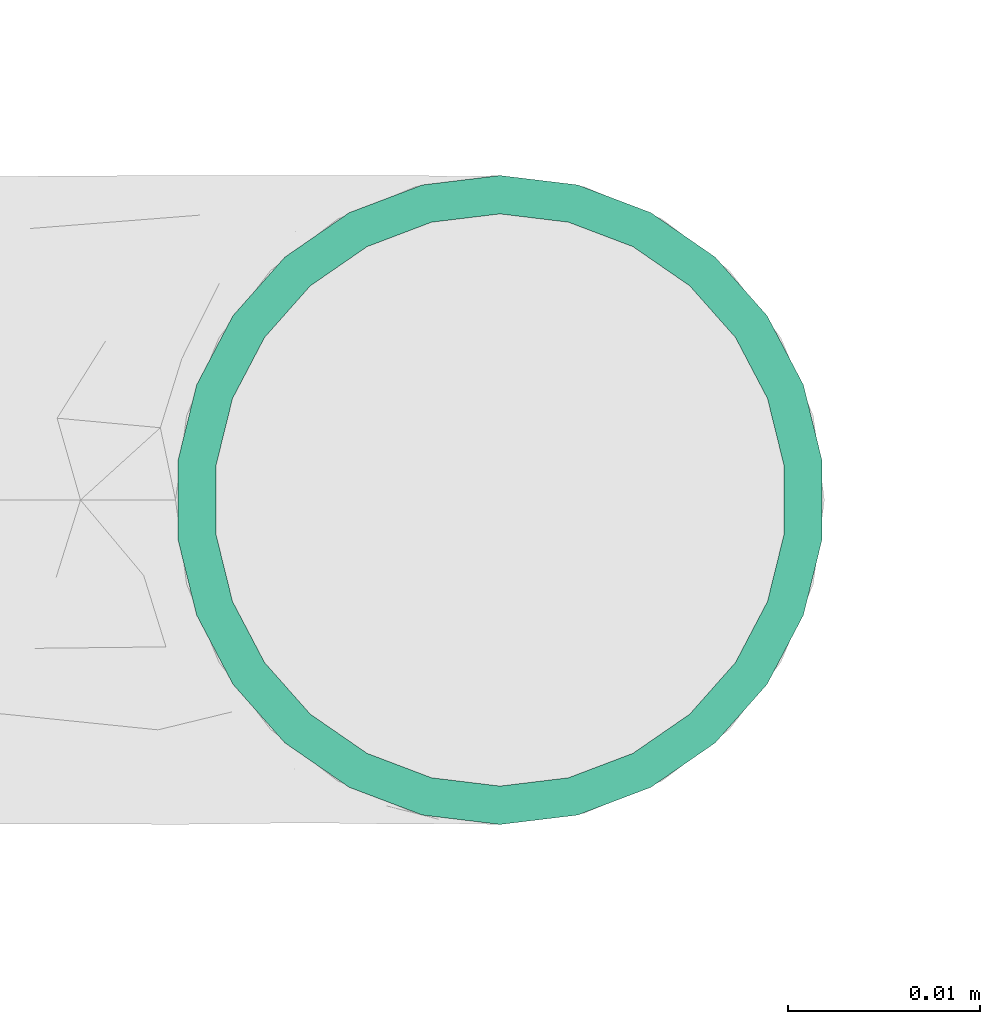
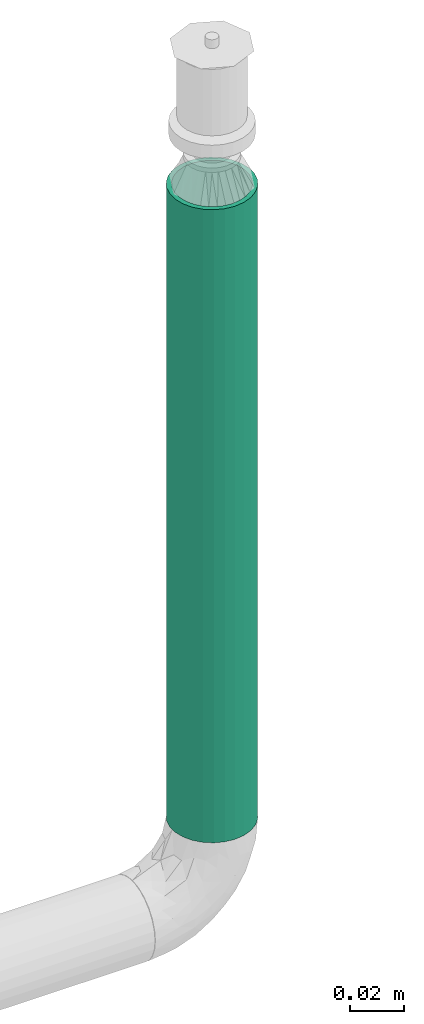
# One storey, part 15 of 63: 1 flow segment.
"""IFC2X3 building model written with IfcOpenShell, lengths in millimetres."""

import ifcopenshell
import ifcopenshell.guid

model = None  # the IFC model being written
_history = None  # IfcOwnerHistory: only IFC2X3 demands one
_inside = {}  # id of a spatial element -> (the spatial element, [elements in it])
_under = {}  # id of a project, library or spatial element -> (it, [spatial elements below it])
_declared = {}  # id of a project -> (the project, [libraries it declares])
_typed = {}  # id of a type object -> (the type object, [elements of that type])
_made_of = {}  # id of a material, layer set ... -> (it, [elements and type objects made of it])


def new_model(schema):
    """Start an empty IFC model of exactly this schema.

    Asked for "IFC4X3", IfcOpenShell would pick the latest addendum, in which some entities
    have other attributes; the version numbers below select the first issue.
    IFC2X3 requires an IfcOwnerHistory on every rooted entity: one is made here for all.
    """
    global model, _history
    if schema == "IFC4X3":
        model = ifcopenshell.file(schema_version=(4, 3, 0, 0))
    else:
        model = ifcopenshell.file(schema=schema)
    _inside.clear()
    _under.clear()
    _declared.clear()
    _typed.clear()
    _made_of.clear()
    _history = None
    if model.schema == "IFC2X3":
        org = make("IfcOrganization", Name="unknown")
        user = make(
            "IfcPersonAndOrganization",
            ThePerson=make("IfcPerson", FamilyName="unknown"),
            TheOrganization=org,
        )
        app = make(
            "IfcApplication",
            ApplicationDeveloper=org,
            Version="unknown",
            ApplicationFullName="unknown",
            ApplicationIdentifier="unknown",
        )
        _history = make(
            "IfcOwnerHistory",
            OwningUser=user,
            OwningApplication=app,
            ChangeAction="ADDED",
            CreationDate=0,
        )
    return model


def make(cls, **values):
    """One entity of the class cls with the attributes given. An attribute that is None is left unset."""
    return model.create_entity(
        cls, **{name: value for name, value in values.items() if value is not None}
    )


def entity(cls, *values):
    """Any entity or typed value of the class cls, its attributes in the order of the schema. None: left unset."""
    e = model.create_entity(cls)
    for i, value in enumerate(values):
        if value is not None:
            e[i] = value
    return e


def rooted(cls, **values):
    """An entity with a GlobalId (a new one), such as an element, a storey or a relation."""
    return make(cls, GlobalId=ifcopenshell.guid.new(), OwnerHistory=_history, **values)


def si_unit(unit_type, name, prefix=None):
    """IfcSIUnit, for example si_unit("LENGTHUNIT", "METRE", prefix="MILLI")."""
    return make("IfcSIUnit", UnitType=unit_type, Prefix=prefix, Name=name)


def converted_unit(unit_type, name, factor, base, dimensions=None, offset=None):
    """IfcConversionBasedUnit, such as the inch: factor (a typed value) times the base unit."""
    return make(
        "IfcConversionBasedUnit"
        if offset is None
        else "IfcConversionBasedUnitWithOffset",
        ConversionOffset=offset,
        Dimensions=None
        if dimensions is None
        else entity("IfcDimensionalExponents", *dimensions),
        UnitType=unit_type,
        Name=name,
        ConversionFactor=make(
            "IfcMeasureWithUnit", ValueComponent=factor, UnitComponent=base
        ),
    )


def derived_unit(unit_type, elements):
    """IfcDerivedUnit: a product of units, each with its exponent."""
    return make(
        "IfcDerivedUnit",
        Elements=[
            make("IfcDerivedUnitElement", Unit=unit, Exponent=power)
            for unit, power in elements
        ],
        UnitType=unit_type,
    )


def assignment(units):
    """IfcUnitAssignment: the units of a project."""
    return None if units is None else make("IfcUnitAssignment", Units=units)


def point(xyz):
    """IfcCartesianPoint."""
    return None if xyz is None else make("IfcCartesianPoint", Coordinates=xyz)


def direction(xyz):
    """IfcDirection."""
    return None if xyz is None else make("IfcDirection", DirectionRatios=xyz)


def frame(location, z_axis=None, x_axis=None):
    """IfcAxis2Placement3D, a coordinate frame: its origin and axes. An axis left out is left unset."""
    return make(
        "IfcAxis2Placement3D",
        Location=point(location),
        Axis=direction(z_axis),
        RefDirection=direction(x_axis),
    )


def frame_2d(location, x_axis=None):
    """IfcAxis2Placement2D, a coordinate frame in the plane: its origin and x axis."""
    return make(
        "IfcAxis2Placement2D", Location=point(location), RefDirection=direction(x_axis)
    )


def origin_with_axes():
    """The frame at (0, 0, 0) with the z axis (0, 0, 1) and the x axis (1, 0, 0) written out."""
    return frame((0.0, 0.0, 0.0), z_axis=(0.0, 0.0, 1.0), x_axis=(1.0, 0.0, 0.0))


def origin_2d_with_axis():
    """The frame at (0, 0) in the plane with the x axis (1, 0) written out."""
    return frame_2d((0.0, 0.0), x_axis=(1.0, 0.0))


def place(relative_to, where):
    """IfcLocalPlacement: puts the frame where relative to a parent placement (None: the world)."""
    return make(
        "IfcLocalPlacement", PlacementRelTo=relative_to, RelativePlacement=where
    )


def context(
    kind, dimensions, precision=None, world=None, true_north=None, identifier=None
):
    """IfcGeometricRepresentationContext, for example the 3D "Model" context."""
    return make(
        "IfcGeometricRepresentationContext",
        ContextIdentifier=identifier,
        ContextType=kind,
        CoordinateSpaceDimension=dimensions,
        Precision=precision,
        WorldCoordinateSystem=world,
        TrueNorth=true_north,
    )


def subcontext(parent, identifier, kind, view, scale=None):
    """IfcGeometricRepresentationSubContext, for example "Body" below "Model"."""
    return make(
        "IfcGeometricRepresentationSubContext",
        ContextIdentifier=identifier,
        ContextType=kind,
        ParentContext=parent,
        TargetScale=scale,
        TargetView=view,
    )


def project(units=None, contexts=None):
    """IfcProject with its units and contexts."""
    return rooted(
        "IfcProject",
        Name="project",
        RepresentationContexts=contexts,
        UnitsInContext=assignment(units),
    )


def spatial(cls, under=None, at=None, **own):
    """A site, building, storey or space (cls), placed at a placement, below another one or the project."""
    s = rooted(cls, ObjectPlacement=at, **own)
    if under is not None:
        _under.setdefault(under.id(), (under, []))[1].append(s)
    return s


def profile(cls, at=None, kind="AREA", **sizes):
    """A parametric profile (cls). Its sizes go by their IFC names, for example OverallWidth=200.0."""
    return make(cls, ProfileType=kind, Position=at, **sizes)


def hollow_circle(**sizes):
    """IfcCircleHollowProfileDef."""
    return profile("IfcCircleHollowProfileDef", **sizes)


def extrude(swept, where, along, depth):
    """IfcExtrudedAreaSolid: the profile swept, set in the frame where, extruded along a direction by depth."""
    return make(
        "IfcExtrudedAreaSolid",
        SweptArea=swept,
        Position=where,
        ExtrudedDirection=direction(along),
        Depth=depth,
    )


def shape(context_of_items, identifier, shape_type, items):
    """IfcShapeRepresentation: the items that make up one representation, for example the "Body"."""
    return make(
        "IfcShapeRepresentation",
        ContextOfItems=context_of_items,
        RepresentationIdentifier=identifier,
        RepresentationType=shape_type,
        Items=items,
    )


def source(mapping_origin, context_of_items, identifier, shape_type, items):
    """IfcRepresentationMap: a shape defined once, which mapped items show again and again."""
    return make(
        "IfcRepresentationMap",
        MappingOrigin=mapping_origin,
        MappedRepresentation=shape(context_of_items, identifier, shape_type, items),
    )


def transform(
    local_origin,
    x_axis=None,
    y_axis=None,
    z_axis=None,
    scale=None,
    scale2=None,
    scale3=None,
    uniform=True,
):
    """IfcCartesianTransformationOperator3D, or its non-uniform kind. x_axis, y_axis, z_axis: its Axis1, 2, 3."""
    if uniform:
        return make(
            "IfcCartesianTransformationOperator3D",
            Axis1=direction(x_axis),
            Axis2=direction(y_axis),
            LocalOrigin=point(local_origin),
            Scale=scale,
            Axis3=direction(z_axis),
        )
    return make(
        "IfcCartesianTransformationOperator3DnonUniform",
        Axis1=direction(x_axis),
        Axis2=direction(y_axis),
        LocalOrigin=point(local_origin),
        Scale=scale,
        Axis3=direction(z_axis),
        Scale2=scale2,
        Scale3=scale3,
    )


def mapped(mapping_source, mapping_target):
    """IfcMappedItem: shows the shape of a source again, moved by a transform."""
    return make(
        "IfcMappedItem", MappingSource=mapping_source, MappingTarget=mapping_target
    )


def made_of(thing, what):
    """Note that an element or type object is made of a material, layer set ...; save() writes the relation."""
    if what is not None:
        _made_of.setdefault(what.id(), (what, []))[1].append(thing)
    return thing


def type_object(cls, material=None, **own):
    """A type object (cls), such as IfcWallType, which elements share."""
    return made_of(rooted(cls, **own), material)


def element(
    cls,
    number,
    at=None,
    inside=None,
    cuts=None,
    type_object=None,
    material=None,
    context=None,
    identifier="Body",
    shape_type=None,
    held_by="IfcProductDefinitionShape",
    body=None,
    shapes=None,
    **own,
):
    """One element of the class cls, such as IfcWall. Its Tag is "e" and its number.

    at: its placement. inside: the storey or other place that contains it. cuts: it is an
    opening in that element (IfcRelVoidsElement). A single representation is given by context,
    identifier, shape_type and body (its items); several are given by shapes. held_by: the class
    of the entity that holds the representations. save() writes the other relations.
    """
    e = rooted(cls, Tag="e%d" % number, ObjectPlacement=at, **own)
    if body is not None:
        shapes = [shape(context, identifier, shape_type, body)]
    if shapes is not None:
        e.Representation = make(held_by, Representations=shapes)
    if inside is not None:
        _inside.setdefault(inside.id(), (inside, []))[1].append(e)
    if cuts is not None:
        rooted(
            "IfcRelVoidsElement", RelatingBuildingElement=cuts, RelatedOpeningElement=e
        )
    if type_object is not None:
        _typed.setdefault(type_object.id(), (type_object, []))[1].append(e)
    return made_of(e, material)


def aggregate(whole, parts):
    """IfcRelAggregates: a whole, such as a stair, and the parts it consists of."""
    return rooted("IfcRelAggregates", RelatingObject=whole, RelatedObjects=parts)


def save(model, path):
    """Write the relations noted so far, then the file.

    IfcRelAggregates (storeys below a building ...), IfcRelContainedInSpatialStructure (elements
    in a storey), IfcRelDefinesByType, IfcRelAssociatesMaterial and IfcRelDeclares: one each for
    every whole, place, type object, material and project.
    """
    for whole, parts in _under.values():
        aggregate(whole, parts)
    for where, things in _inside.values():
        rooted(
            "IfcRelContainedInSpatialStructure",
            RelatedElements=things,
            RelatingStructure=where,
        )
    for kind, things in _typed.values():
        rooted("IfcRelDefinesByType", RelatedObjects=things, RelatingType=kind)
    for what, things in _made_of.values():
        rooted("IfcRelAssociatesMaterial", RelatedObjects=things, RelatingMaterial=what)
    for by, libraries in _declared.values():
        rooted("IfcRelDeclares", RelatingContext=by, RelatedDefinitions=libraries)
    model.write(path)


model = new_model("IFC2X3")

# Units and contexts
model_context = context("Model", 3, precision=0.01, world=frame((0.0, 4.29681676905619e-09, 0.0)), true_north=direction((4.01073788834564e-13, 1.0)))
plan_context = context("Plan", 3, precision=0.01, world=frame((0.0, 4.29681676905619e-09, 0.0)), true_north=direction((4.01073788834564e-13, 1.0)))
body_context = subcontext(model_context, "Body", "Model", "MODEL_VIEW")
ifc_project = project(units=[converted_unit("PLANEANGLEUNIT", "DEGREE", entity("IfcPositiveLengthMeasure", 0.0174532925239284), si_unit("PLANEANGLEUNIT", "RADIAN"), dimensions=[0, 0, 0, 0, 0, 0, 0]), si_unit("AREAUNIT", "SQUARE_METRE"), si_unit("LENGTHUNIT", "METRE", prefix="MILLI"), si_unit("MASSUNIT", "GRAM", prefix="KILO"), si_unit("POWERUNIT", "WATT"), si_unit("PRESSUREUNIT", "PASCAL", prefix="KILO"), si_unit("FORCEUNIT", "NEWTON", prefix="KILO"), si_unit("ELECTRICVOLTAGEUNIT", "VOLT"), si_unit("ELECTRICCURRENTUNIT", "AMPERE"), si_unit("THERMODYNAMICTEMPERATUREUNIT", "DEGREE_CELSIUS"), si_unit("TIMEUNIT", "SECOND"), si_unit("VOLUMEUNIT", "CUBIC_METRE"), derived_unit("LINEARVELOCITYUNIT", [(si_unit("LENGTHUNIT", "METRE"), 1), (si_unit("TIMEUNIT", "SECOND"), -1)]), derived_unit("VOLUMETRICFLOWRATEUNIT", [(si_unit("VOLUMEUNIT", "CUBIC_METRE"), 1), (si_unit("TIMEUNIT", "SECOND"), -1)]), derived_unit("THERMALTRANSMITTANCEUNIT", [(si_unit("POWERUNIT", "WATT"), 1), (si_unit("THERMODYNAMICTEMPERATUREUNIT", "KELVIN"), -1), (si_unit("AREAUNIT", "SQUARE_METRE"), -1)]), derived_unit("SOUNDPRESSUREUNIT", [(si_unit("PRESSUREUNIT", "PASCAL"), 1)])], contexts=[model_context, plan_context])

# Site, building, storey
site_placement = place(None, frame((0.0, -4.29681676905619e-09, 0.0), z_axis=(0.0, 0.0, 1.0), x_axis=(1.0, 0.0, 0.0)))
site = spatial("IfcSite", under=ifc_project, at=site_placement, CompositionType="ELEMENT")
building_placement = place(site_placement, frame((0.0, 4.29681676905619e-09, 0.0), z_axis=(0.0, 0.0, 1.0), x_axis=(1.0, 0.0, 0.0)))
building = spatial("IfcBuilding", under=site, at=building_placement, Name="mc-building", CompositionType="ELEMENT")
storey_placement = place(building_placement, frame((0.0, 0.0, 207370.0), z_axis=(0.0, 0.0, 1.0), x_axis=(1.0, 0.0, 0.0)))
storey = spatial("IfcBuildingStorey", under=building, at=storey_placement, Name="Nivå E", CompositionType="ELEMENT", Elevation=207370.0)

# Flow segment
pipe_segment_type = type_object("IfcPipeSegmentType", Name="Stålrør normaltykke", PredefinedType="RIGIDSEGMENT")
shared_shape = source(origin_with_axes(), body_context, "Body", "SweptSolid", [
    extrude(hollow_circle(Radius=16.9, WallThickness=2.0, at=origin_2d_with_axis()), frame((0.0, 0.0, 0.0), z_axis=(1.0, 0.0, 0.0), x_axis=(0.0, 1.0, 0.0)), (0.0, 0.0, 1.0), 284.6),
])
flow_segment_placement = place(storey_placement, frame((726016.69316, 434695.91689, 2733.79999999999), z_axis=(1.0, 0.0, 0.0), x_axis=(0.0, 0.0, 1.0)))
element("IfcFlowSegment", 1, at=flow_segment_placement, inside=storey, type_object=pipe_segment_type, Name="Stålrør normaltykke", context=body_context, shape_type="MappedRepresentation", body=[
    mapped(shared_shape, transform((0.0, 0.0, 0.0), scale=1.0)),
])

save(model, "model.ifc")
